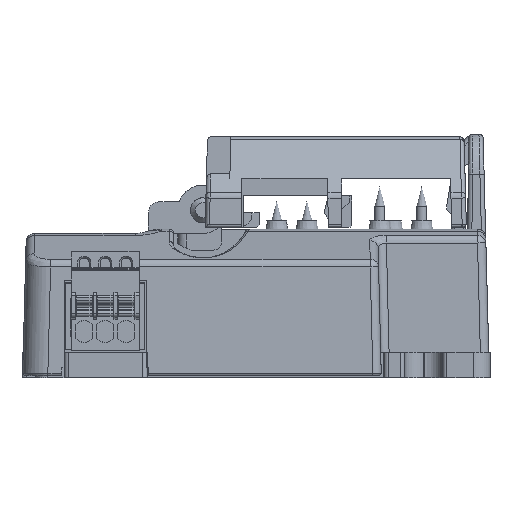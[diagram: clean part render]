
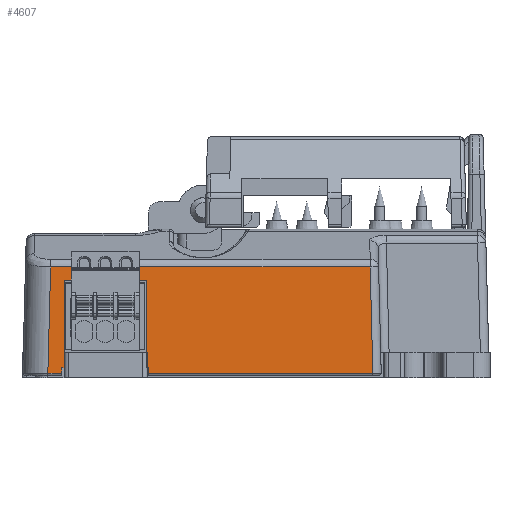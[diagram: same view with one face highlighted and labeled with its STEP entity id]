
A CAD part, left-side view. The second image highlights one B-rep face of the part: STEP entity #4607.
In plain terms, the highlighted planar face has unit normal (-1, 0, 0.026).
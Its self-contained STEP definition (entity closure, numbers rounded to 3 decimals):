
#2787=FACE_OUTER_BOUND('',#9022,.T.);
#4607=ADVANCED_FACE('',(#2787),#6416,.T.);
#6416=PLANE('',#38051);
#9022=EDGE_LOOP('',(#13069,#13070,#13071,#13072,#13073,#13074,#13075,#13076,
#13077,#13078,#13079,#13080));
#13069=ORIENTED_EDGE('',*,*,#25505,.F.);
#13070=ORIENTED_EDGE('',*,*,#25506,.F.);
#13071=ORIENTED_EDGE('',*,*,#25507,.F.);
#13072=ORIENTED_EDGE('',*,*,#25508,.F.);
#13073=ORIENTED_EDGE('',*,*,#25509,.T.);
#13074=ORIENTED_EDGE('',*,*,#25460,.T.);
#13075=ORIENTED_EDGE('',*,*,#25510,.T.);
#13076=ORIENTED_EDGE('',*,*,#25511,.F.);
#13077=ORIENTED_EDGE('',*,*,#25512,.F.);
#13078=ORIENTED_EDGE('',*,*,#25513,.F.);
#13079=ORIENTED_EDGE('',*,*,#25514,.F.);
#13080=ORIENTED_EDGE('',*,*,#25515,.F.);
#21699=VERTEX_POINT('',#52566);
#21713=VERTEX_POINT('',#52677);
#21751=VERTEX_POINT('',#52850);
#21752=VERTEX_POINT('',#52851);
#21753=VERTEX_POINT('',#52853);
#21754=VERTEX_POINT('',#52855);
#21755=VERTEX_POINT('',#52857);
#21756=VERTEX_POINT('',#52860);
#21757=VERTEX_POINT('',#52862);
#21758=VERTEX_POINT('',#52864);
#21759=VERTEX_POINT('',#52866);
#21760=VERTEX_POINT('',#52868);
#25460=EDGE_CURVE('',#21699,#21713,#30286,.T.);
#25505=EDGE_CURVE('',#21751,#21752,#30316,.T.);
#25506=EDGE_CURVE('',#21753,#21751,#30317,.T.);
#25507=EDGE_CURVE('',#21754,#21753,#30318,.T.);
#25508=EDGE_CURVE('',#21755,#21754,#30319,.T.);
#25509=EDGE_CURVE('',#21755,#21699,#30320,.T.);
#25510=EDGE_CURVE('',#21713,#21756,#30321,.T.);
#25511=EDGE_CURVE('',#21757,#21756,#30322,.T.);
#25512=EDGE_CURVE('',#21758,#21757,#30323,.T.);
#25513=EDGE_CURVE('',#21759,#21758,#30324,.T.);
#25514=EDGE_CURVE('',#21760,#21759,#30325,.T.);
#25515=EDGE_CURVE('',#21752,#21760,#30326,.T.);
#30286=LINE('',#52679,#34158);
#30316=LINE('',#52849,#34188);
#30317=LINE('',#52852,#34189);
#30318=LINE('',#52854,#34190);
#30319=LINE('',#52856,#34191);
#30320=LINE('',#52858,#34192);
#30321=LINE('',#52859,#34193);
#30322=LINE('',#52861,#34194);
#30323=LINE('',#52863,#34195);
#30324=LINE('',#52865,#34196);
#30325=LINE('',#52867,#34197);
#30326=LINE('',#52869,#34198);
#34158=VECTOR('',#42380,1.);
#34188=VECTOR('',#42454,1.);
#34189=VECTOR('',#42455,1.);
#34190=VECTOR('',#42456,1.);
#34191=VECTOR('',#42457,1.);
#34192=VECTOR('',#42458,1.);
#34193=VECTOR('',#42459,1.);
#34194=VECTOR('',#42460,1.);
#34195=VECTOR('',#42461,1.);
#34196=VECTOR('',#42462,1.);
#34197=VECTOR('',#42463,1.);
#34198=VECTOR('',#42464,1.);
#38051=AXIS2_PLACEMENT_3D('',#52870,#42465,#42466);
#42380=DIRECTION('',(0.,1.,0.));
#42454=DIRECTION('',(0.026,0.,1.));
#42455=DIRECTION('',(0.,1.,0.));
#42456=DIRECTION('',(0.026,0.,1.));
#42457=DIRECTION('',(0.,1.,0.));
#42458=DIRECTION('',(0.026,0.025,0.999));
#42459=DIRECTION('',(-0.026,0.026,-0.999));
#42460=DIRECTION('',(0.,1.,0.));
#42461=DIRECTION('',(-0.026,0.,-1.));
#42462=DIRECTION('',(0.,1.,0.));
#42463=DIRECTION('',(-0.026,0.,-1.));
#42464=DIRECTION('',(0.,1.,0.));
#42465=DIRECTION('',(-1.,0.,0.026));
#42466=DIRECTION('',(-0.026,0.,-1.));
#52566=CARTESIAN_POINT('',(-790.607,187.321,20.49));
#52677=CARTESIAN_POINT('',(-790.607,225.409,20.49));
#52679=CARTESIAN_POINT('',(-790.607,219.566,20.49));
#52849=CARTESIAN_POINT('',(-790.953,214.007,7.3));
#52850=CARTESIAN_POINT('',(-790.921,214.007,8.5));
#52851=CARTESIAN_POINT('',(-790.649,214.007,18.9));
#52852=CARTESIAN_POINT('',(-790.921,205.991,8.5));
#52853=CARTESIAN_POINT('',(-790.921,213.707,8.5));
#52854=CARTESIAN_POINT('',(-790.953,213.707,7.3));
#52855=CARTESIAN_POINT('',(-790.94,213.707,7.8));
#52856=CARTESIAN_POINT('',(-790.94,219.566,7.8));
#52857=CARTESIAN_POINT('',(-790.94,187.007,7.8));
#52858=CARTESIAN_POINT('',(-790.93,187.016,8.177));
#52859=CARTESIAN_POINT('',(-790.949,225.75,7.462));
#52860=CARTESIAN_POINT('',(-790.94,225.742,7.8));
#52861=CARTESIAN_POINT('',(-790.94,219.566,7.8));
#52862=CARTESIAN_POINT('',(-790.94,224.107,7.8));
#52863=CARTESIAN_POINT('',(-790.953,224.107,7.3));
#52864=CARTESIAN_POINT('',(-790.921,224.107,8.5));
#52865=CARTESIAN_POINT('',(-790.921,205.991,8.5));
#52866=CARTESIAN_POINT('',(-790.921,223.807,8.5));
#52867=CARTESIAN_POINT('',(-790.953,223.807,7.3));
#52868=CARTESIAN_POINT('',(-790.649,223.807,18.9));
#52869=CARTESIAN_POINT('',(-790.649,219.566,18.9));
#52870=CARTESIAN_POINT('',(-790.953,219.566,7.3));
